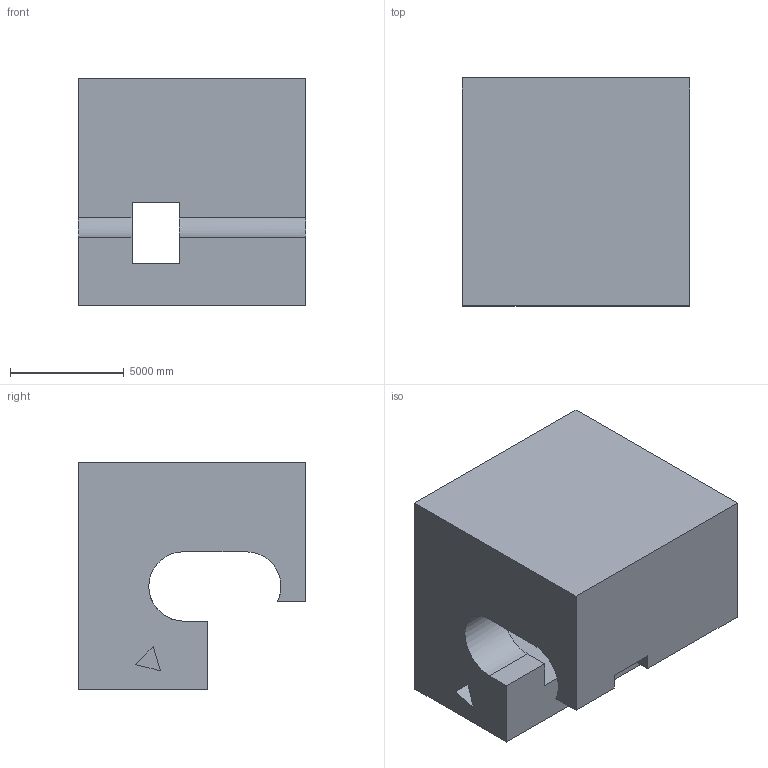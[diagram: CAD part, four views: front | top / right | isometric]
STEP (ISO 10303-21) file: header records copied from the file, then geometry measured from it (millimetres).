
FILE_DESCRIPTION (( 'STEP AP203' ), '1' );
FILE_NAME ('1345.STEP', '2022-08-18T13:57:53', ( 'user' ), ( '' ), 'SwSTEP 2.0', 'SolidWorks 2021', '' );
FILE_SCHEMA (( 'CONFIG_CONTROL_DESIGN' ));
Length unit declared in the file: centimetre
Products named in the file (1): 1345
Bounding box: 10000 x 10000 x 10000 mm (x, y, z)
Volume: 672268572025.6 mm3; surface area: 647098021.6 mm2
Topology: 1 solids, 1 shells, 25 faces, 69 edges, 46 vertices
Faces by surface type: plane 23, cylinder 2
Entity records: 872 total; most frequent: CARTESIAN_POINT 141, ORIENTED_EDGE 138, DIRECTION 129, EDGE_CURVE 69, VECTOR 61, LINE 61, VERTEX_POINT 46, AXIS2_PLACEMENT_3D 34
